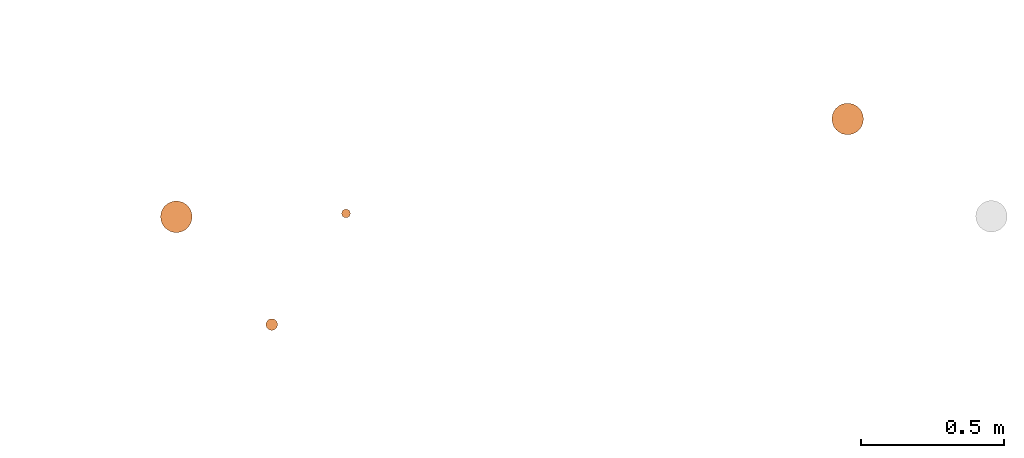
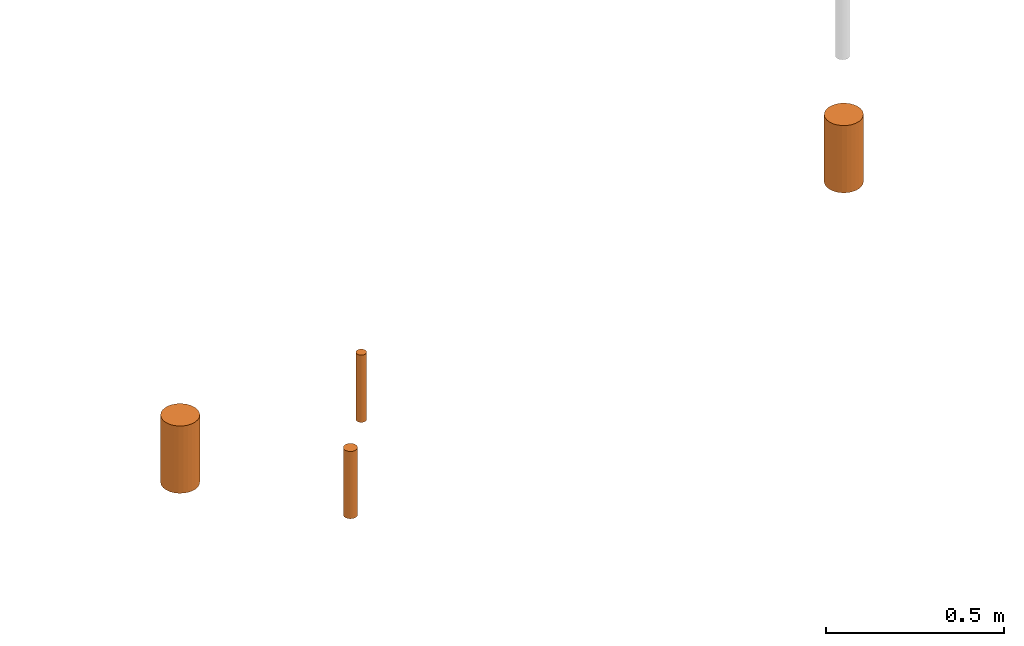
# One storey, part 11 of 16: 4 proxies.
"""IFC2X3 building model written with IfcOpenShell, lengths in centimetres."""

import ifcopenshell
import ifcopenshell.guid

model = None  # the IFC model being written
_history = None  # IfcOwnerHistory: only IFC2X3 demands one
_inside = {}  # id of a spatial element -> (the spatial element, [elements in it])
_under = {}  # id of a project, library or spatial element -> (it, [spatial elements below it])
_declared = {}  # id of a project -> (the project, [libraries it declares])
_typed = {}  # id of a type object -> (the type object, [elements of that type])
_made_of = {}  # id of a material, layer set ... -> (it, [elements and type objects made of it])


def new_model(schema):
    """Start an empty IFC model of exactly this schema.

    Asked for "IFC4X3", IfcOpenShell would pick the latest addendum, in which some entities
    have other attributes; the version numbers below select the first issue.
    IFC2X3 requires an IfcOwnerHistory on every rooted entity: one is made here for all.
    """
    global model, _history
    if schema == "IFC4X3":
        model = ifcopenshell.file(schema_version=(4, 3, 0, 0))
    else:
        model = ifcopenshell.file(schema=schema)
    _inside.clear()
    _under.clear()
    _declared.clear()
    _typed.clear()
    _made_of.clear()
    _history = None
    if model.schema == "IFC2X3":
        org = make("IfcOrganization", Name="unknown")
        user = make(
            "IfcPersonAndOrganization",
            ThePerson=make("IfcPerson", FamilyName="unknown"),
            TheOrganization=org,
        )
        app = make(
            "IfcApplication",
            ApplicationDeveloper=org,
            Version="unknown",
            ApplicationFullName="unknown",
            ApplicationIdentifier="unknown",
        )
        _history = make(
            "IfcOwnerHistory",
            OwningUser=user,
            OwningApplication=app,
            ChangeAction="ADDED",
            CreationDate=0,
        )
    return model


def make(cls, **values):
    """One entity of the class cls with the attributes given. An attribute that is None is left unset."""
    return model.create_entity(
        cls, **{name: value for name, value in values.items() if value is not None}
    )


def entity(cls, *values):
    """Any entity or typed value of the class cls, its attributes in the order of the schema. None: left unset."""
    e = model.create_entity(cls)
    for i, value in enumerate(values):
        if value is not None:
            e[i] = value
    return e


def rooted(cls, **values):
    """An entity with a GlobalId (a new one), such as an element, a storey or a relation."""
    return make(cls, GlobalId=ifcopenshell.guid.new(), OwnerHistory=_history, **values)


def si_unit(unit_type, name, prefix=None):
    """IfcSIUnit, for example si_unit("LENGTHUNIT", "METRE", prefix="MILLI")."""
    return make("IfcSIUnit", UnitType=unit_type, Prefix=prefix, Name=name)


def converted_unit(unit_type, name, factor, base, dimensions=None, offset=None):
    """IfcConversionBasedUnit, such as the inch: factor (a typed value) times the base unit."""
    return make(
        "IfcConversionBasedUnit"
        if offset is None
        else "IfcConversionBasedUnitWithOffset",
        ConversionOffset=offset,
        Dimensions=None
        if dimensions is None
        else entity("IfcDimensionalExponents", *dimensions),
        UnitType=unit_type,
        Name=name,
        ConversionFactor=make(
            "IfcMeasureWithUnit", ValueComponent=factor, UnitComponent=base
        ),
    )


def derived_unit(unit_type, elements):
    """IfcDerivedUnit: a product of units, each with its exponent."""
    return make(
        "IfcDerivedUnit",
        Elements=[
            make("IfcDerivedUnitElement", Unit=unit, Exponent=power)
            for unit, power in elements
        ],
        UnitType=unit_type,
    )


def assignment(units):
    """IfcUnitAssignment: the units of a project."""
    return None if units is None else make("IfcUnitAssignment", Units=units)


def point(xyz):
    """IfcCartesianPoint."""
    return None if xyz is None else make("IfcCartesianPoint", Coordinates=xyz)


def direction(xyz):
    """IfcDirection."""
    return None if xyz is None else make("IfcDirection", DirectionRatios=xyz)


def frame(location, z_axis=None, x_axis=None):
    """IfcAxis2Placement3D, a coordinate frame: its origin and axes. An axis left out is left unset."""
    return make(
        "IfcAxis2Placement3D",
        Location=point(location),
        Axis=direction(z_axis),
        RefDirection=direction(x_axis),
    )


def frame_2d(location, x_axis=None):
    """IfcAxis2Placement2D, a coordinate frame in the plane: its origin and x axis."""
    return make(
        "IfcAxis2Placement2D", Location=point(location), RefDirection=direction(x_axis)
    )


def origin():
    """The frame at (0, 0, 0) with its axes left unset."""
    return frame((0.0, 0.0, 0.0))


def origin_2d_with_axis():
    """The frame at (0, 0) in the plane with the x axis (1, 0) written out."""
    return frame_2d((0.0, 0.0), x_axis=(1.0, 0.0))


def place(relative_to, where):
    """IfcLocalPlacement: puts the frame where relative to a parent placement (None: the world)."""
    return make(
        "IfcLocalPlacement", PlacementRelTo=relative_to, RelativePlacement=where
    )


def context(
    kind, dimensions, precision=None, world=None, true_north=None, identifier=None
):
    """IfcGeometricRepresentationContext, for example the 3D "Model" context."""
    return make(
        "IfcGeometricRepresentationContext",
        ContextIdentifier=identifier,
        ContextType=kind,
        CoordinateSpaceDimension=dimensions,
        Precision=precision,
        WorldCoordinateSystem=world,
        TrueNorth=true_north,
    )


def subcontext(parent, identifier, kind, view, scale=None):
    """IfcGeometricRepresentationSubContext, for example "Body" below "Model"."""
    return make(
        "IfcGeometricRepresentationSubContext",
        ContextIdentifier=identifier,
        ContextType=kind,
        ParentContext=parent,
        TargetScale=scale,
        TargetView=view,
    )


def project(units=None, contexts=None):
    """IfcProject with its units and contexts."""
    return rooted(
        "IfcProject",
        Name="project",
        RepresentationContexts=contexts,
        UnitsInContext=assignment(units),
    )


def spatial(cls, under=None, at=None, **own):
    """A site, building, storey or space (cls), placed at a placement, below another one or the project."""
    s = rooted(cls, ObjectPlacement=at, **own)
    if under is not None:
        _under.setdefault(under.id(), (under, []))[1].append(s)
    return s


def profile(cls, at=None, kind="AREA", **sizes):
    """A parametric profile (cls). Its sizes go by their IFC names, for example OverallWidth=200.0."""
    return make(cls, ProfileType=kind, Position=at, **sizes)


def circle(**sizes):
    """IfcCircleProfileDef."""
    return profile("IfcCircleProfileDef", **sizes)


def extrude(swept, where, along, depth):
    """IfcExtrudedAreaSolid: the profile swept, set in the frame where, extruded along a direction by depth."""
    return make(
        "IfcExtrudedAreaSolid",
        SweptArea=swept,
        Position=where,
        ExtrudedDirection=direction(along),
        Depth=depth,
    )


def shape(context_of_items, identifier, shape_type, items):
    """IfcShapeRepresentation: the items that make up one representation, for example the "Body"."""
    return make(
        "IfcShapeRepresentation",
        ContextOfItems=context_of_items,
        RepresentationIdentifier=identifier,
        RepresentationType=shape_type,
        Items=items,
    )


def source(mapping_origin, context_of_items, identifier, shape_type, items):
    """IfcRepresentationMap: a shape defined once, which mapped items show again and again."""
    return make(
        "IfcRepresentationMap",
        MappingOrigin=mapping_origin,
        MappedRepresentation=shape(context_of_items, identifier, shape_type, items),
    )


def transform(
    local_origin,
    x_axis=None,
    y_axis=None,
    z_axis=None,
    scale=None,
    scale2=None,
    scale3=None,
    uniform=True,
):
    """IfcCartesianTransformationOperator3D, or its non-uniform kind. x_axis, y_axis, z_axis: its Axis1, 2, 3."""
    if uniform:
        return make(
            "IfcCartesianTransformationOperator3D",
            Axis1=direction(x_axis),
            Axis2=direction(y_axis),
            LocalOrigin=point(local_origin),
            Scale=scale,
            Axis3=direction(z_axis),
        )
    return make(
        "IfcCartesianTransformationOperator3DnonUniform",
        Axis1=direction(x_axis),
        Axis2=direction(y_axis),
        LocalOrigin=point(local_origin),
        Scale=scale,
        Axis3=direction(z_axis),
        Scale2=scale2,
        Scale3=scale3,
    )


def mapped(mapping_source, mapping_target):
    """IfcMappedItem: shows the shape of a source again, moved by a transform."""
    return make(
        "IfcMappedItem", MappingSource=mapping_source, MappingTarget=mapping_target
    )


def material(Name=None, Category=None):
    """IfcMaterial."""
    return make("IfcMaterial", Name=Name, Category=Category)


def made_of(thing, what):
    """Note that an element or type object is made of a material, layer set ...; save() writes the relation."""
    if what is not None:
        _made_of.setdefault(what.id(), (what, []))[1].append(thing)
    return thing


def type_object(cls, material=None, **own):
    """A type object (cls), such as IfcWallType, which elements share."""
    return made_of(rooted(cls, **own), material)


def type_shapes(of_type, sources):
    """Give a type object the sources (RepresentationMaps) that its elements show as mapped items."""
    of_type.RepresentationMaps = sources


def element(
    cls,
    number,
    at=None,
    inside=None,
    cuts=None,
    type_object=None,
    material=None,
    context=None,
    identifier="Body",
    shape_type=None,
    held_by="IfcProductDefinitionShape",
    body=None,
    shapes=None,
    **own,
):
    """One element of the class cls, such as IfcWall. Its Tag is "e" and its number.

    at: its placement. inside: the storey or other place that contains it. cuts: it is an
    opening in that element (IfcRelVoidsElement). A single representation is given by context,
    identifier, shape_type and body (its items); several are given by shapes. held_by: the class
    of the entity that holds the representations. save() writes the other relations.
    """
    e = rooted(cls, Tag="e%d" % number, ObjectPlacement=at, **own)
    if body is not None:
        shapes = [shape(context, identifier, shape_type, body)]
    if shapes is not None:
        e.Representation = make(held_by, Representations=shapes)
    if inside is not None:
        _inside.setdefault(inside.id(), (inside, []))[1].append(e)
    if cuts is not None:
        rooted(
            "IfcRelVoidsElement", RelatingBuildingElement=cuts, RelatedOpeningElement=e
        )
    if type_object is not None:
        _typed.setdefault(type_object.id(), (type_object, []))[1].append(e)
    return made_of(e, material)


def aggregate(whole, parts):
    """IfcRelAggregates: a whole, such as a stair, and the parts it consists of."""
    return rooted("IfcRelAggregates", RelatingObject=whole, RelatedObjects=parts)


def save(model, path):
    """Write the relations noted so far, then the file.

    IfcRelAggregates (storeys below a building ...), IfcRelContainedInSpatialStructure (elements
    in a storey), IfcRelDefinesByType, IfcRelAssociatesMaterial and IfcRelDeclares: one each for
    every whole, place, type object, material and project.
    """
    for whole, parts in _under.values():
        aggregate(whole, parts)
    for where, things in _inside.values():
        rooted(
            "IfcRelContainedInSpatialStructure",
            RelatedElements=things,
            RelatingStructure=where,
        )
    for kind, things in _typed.values():
        rooted("IfcRelDefinesByType", RelatedObjects=things, RelatingType=kind)
    for what, things in _made_of.values():
        rooted("IfcRelAssociatesMaterial", RelatedObjects=things, RelatingMaterial=what)
    for by, libraries in _declared.values():
        rooted("IfcRelDeclares", RelatingContext=by, RelatedDefinitions=libraries)
    model.write(path)


model = new_model("IFC2X3")

# Units and contexts
model_context = context("Model", 3, precision=0.001, world=origin(), true_north=direction((6.12303176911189e-17, 1.0)))
body_context = subcontext(model_context, "Body", "Model", "MODEL_VIEW")
ifc_project = project(units=[si_unit("LENGTHUNIT", "METRE", prefix="CENTI"), si_unit("AREAUNIT", "SQUARE_METRE"), si_unit("VOLUMEUNIT", "CUBIC_METRE"), converted_unit("PLANEANGLEUNIT", "DEGREE", entity("IfcRatioMeasure", 0.0174532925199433), si_unit("PLANEANGLEUNIT", "RADIAN"), dimensions=[0, 0, 0, 0, 0, 0, 0]), si_unit("MASSUNIT", "GRAM", prefix="KILO"), derived_unit("MASSDENSITYUNIT", [(si_unit("MASSUNIT", "GRAM", prefix="KILO"), 1), (si_unit("LENGTHUNIT", "METRE"), -3)]), si_unit("TIMEUNIT", "SECOND"), si_unit("FREQUENCYUNIT", "HERTZ"), si_unit("THERMODYNAMICTEMPERATUREUNIT", "DEGREE_CELSIUS"), derived_unit("THERMALTRANSMITTANCEUNIT", [(si_unit("MASSUNIT", "GRAM", prefix="KILO"), 1), (si_unit("THERMODYNAMICTEMPERATUREUNIT", "KELVIN"), -1), (si_unit("TIMEUNIT", "SECOND"), -3)]), derived_unit("VOLUMETRICFLOWRATEUNIT", [(si_unit("LENGTHUNIT", "METRE"), 3), (si_unit("TIMEUNIT", "SECOND"), -1)]), si_unit("ELECTRICCURRENTUNIT", "AMPERE"), si_unit("ELECTRICVOLTAGEUNIT", "VOLT"), si_unit("POWERUNIT", "WATT"), si_unit("FORCEUNIT", "NEWTON"), si_unit("ILLUMINANCEUNIT", "LUX"), si_unit("LUMINOUSFLUXUNIT", "LUMEN"), si_unit("LUMINOUSINTENSITYUNIT", "CANDELA"), derived_unit("USERDEFINED", [(si_unit("MASSUNIT", "GRAM", prefix="KILO"), -1), (si_unit("LENGTHUNIT", "METRE"), -2), (si_unit("TIMEUNIT", "SECOND"), 3), (si_unit("LUMINOUSFLUXUNIT", "LUMEN"), 1)]), derived_unit("LINEARVELOCITYUNIT", [(si_unit("LENGTHUNIT", "METRE"), 1), (si_unit("TIMEUNIT", "SECOND"), -1)]), si_unit("PRESSUREUNIT", "PASCAL"), derived_unit("USERDEFINED", [(si_unit("LENGTHUNIT", "METRE"), -2), (si_unit("MASSUNIT", "GRAM", prefix="KILO"), 1), (si_unit("TIMEUNIT", "SECOND"), -2)])], contexts=[model_context])

# Site, building, storey
site_placement = place(None, origin())
site = spatial("IfcSite", under=ifc_project, at=site_placement, Name="Default", CompositionType="ELEMENT")
building_placement = place(site_placement, origin())
building = spatial("IfcBuilding", under=site, at=building_placement, Name="CAGE 03", CompositionType="ELEMENT")
storey_placement = place(building_placement, frame((0.0, 0.0, 65.0)))
storey = spatial("IfcBuildingStorey", under=building, at=storey_placement, Name="Ac RDC", CompositionType="ELEMENT", Elevation=64.9999999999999)

# Proxies
ifc_material = material(Name="BBGO_Résa")
building_element_proxy_type_1 = type_object("IfcBuildingElementProxyType", Name="Ø110", PredefinedType="NOTDEFINED", material=ifc_material)
shared_shape_1 = source(origin(), body_context, "Body", "SweptSolid", [
    extrude(circle(Radius=5.5, at=origin_2d_with_axis()), frame((9374.03507635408, 4466.28205075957, 317.0)), (0.0, 0.0, 1.0), 22.9999999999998),
])
type_shapes(building_element_proxy_type_1, [shared_shape_1])
proxy_1_placement = place(storey_placement, frame((0.0, 0.0, -65.0)))
element("IfcBuildingElementProxy", 1, at=proxy_1_placement, inside=storey, type_object=building_element_proxy_type_1, material=ifc_material, Name="BBGO-Résa circ dalle:Ø110", ObjectType="Ø110", context=body_context, shape_type="MappedRepresentation", body=[
    mapped(shared_shape_1, transform((0.0, 0.0, 0.0), scale=1.0)),
])
building_element_proxy_type_2 = type_object("IfcBuildingElementProxyType", Name="Ø30", PredefinedType="NOTDEFINED", material=ifc_material)
shared_shape_2 = source(origin(), body_context, "Body", "SweptSolid", [
    extrude(circle(Radius=1.5, at=origin_2d_with_axis()), frame((9433.2709999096, 4467.43782751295, 317.0)), (0.0, 0.0, 1.0), 22.9999999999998),
])
type_shapes(building_element_proxy_type_2, [shared_shape_2])
proxy_2_placement = place(storey_placement, frame((0.0, 0.0, -65.0)))
element("IfcBuildingElementProxy", 2, at=proxy_2_placement, inside=storey, type_object=building_element_proxy_type_2, material=ifc_material, Name="BBGO-Résa circ dalle:Ø30", ObjectType="Ø30", context=body_context, shape_type="MappedRepresentation", body=[
    mapped(shared_shape_2, transform((0.0, 0.0, 0.0), scale=1.0)),
])
building_element_proxy_type_3 = type_object("IfcBuildingElementProxyType", Name="Ø40", PredefinedType="NOTDEFINED", material=ifc_material)
shared_shape_3 = source(origin(), body_context, "Body", "SweptSolid", [
    extrude(circle(Radius=2.0, at=origin_2d_with_axis()), frame((9407.36502385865, 4428.65114070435, 317.0)), (0.0, 0.0, 1.0), 22.9999999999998),
])
type_shapes(building_element_proxy_type_3, [shared_shape_3])
proxy_3_placement = place(storey_placement, frame((0.0, 0.0, -65.0)))
element("IfcBuildingElementProxy", 3, at=proxy_3_placement, inside=storey, type_object=building_element_proxy_type_3, material=ifc_material, Name="BBGO-Résa circ dalle:Ø40", ObjectType="Ø40", context=body_context, shape_type="MappedRepresentation", body=[
    mapped(shared_shape_3, transform((0.0, 0.0, 0.0), scale=1.0)),
])
building_element_proxy_type_4 = type_object("IfcBuildingElementProxyType", Name="Ø110", PredefinedType="NOTDEFINED", material=ifc_material)
shared_shape_4 = source(origin(), body_context, "Body", "SweptSolid", [
    extrude(circle(Radius=5.5, at=origin_2d_with_axis()), frame((9608.40501018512, 4500.4232741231, 317.0)), (0.0, 0.0, 1.0), 22.9999999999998),
])
type_shapes(building_element_proxy_type_4, [shared_shape_4])
proxy_4_placement = place(storey_placement, frame((0.0, 0.0, -65.0)))
element("IfcBuildingElementProxy", 4, at=proxy_4_placement, inside=storey, type_object=building_element_proxy_type_4, material=ifc_material, Name="BBGO-Résa circ dalle:Ø110", ObjectType="Ø110", context=body_context, shape_type="MappedRepresentation", body=[
    mapped(shared_shape_4, transform((0.0, 0.0, 0.0), scale=1.0)),
])

save(model, "model.ifc")
